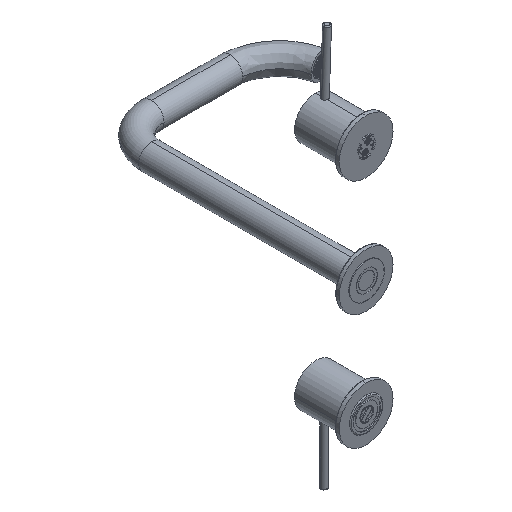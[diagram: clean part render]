
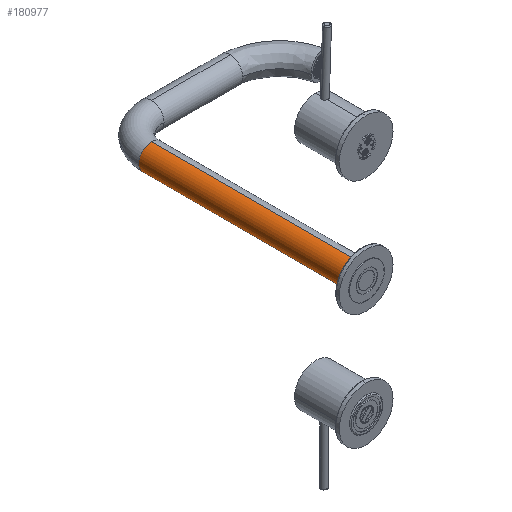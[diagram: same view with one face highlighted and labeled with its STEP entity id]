
A CAD part, isometric view. The second image highlights one B-rep face of the part: STEP entity #180977.
In plain terms, the highlighted cylindrical face has radius 12 mm (diameter 24 mm), a partial arc.
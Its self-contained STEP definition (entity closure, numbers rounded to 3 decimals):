
#77 = DIRECTION ( 'NONE',  ( 0., 1., 0. ) ) ;
#248 = VERTEX_POINT ( 'NONE', #121029 ) ;
#411 = AXIS2_PLACEMENT_3D ( 'NONE', #126833, #60055, #95019 ) ;
#3891 = EDGE_CURVE ( 'NONE', #248, #40190, #157129, .T. ) ;
#4238 = EDGE_LOOP ( 'NONE', ( #158423, #73448, #28075, #25487, #28179 ) ) ;
#7003 = DIRECTION ( 'NONE',  ( 0., -1., 0. ) ) ;
#16295 = EDGE_CURVE ( 'NONE', #42770, #22301, #75241, .T. ) ;
#22301 = VERTEX_POINT ( 'NONE', #138086 ) ;
#22676 = CARTESIAN_POINT ( 'NONE',  ( -130.623, 105.856, 166.776 ) ) ;
#25487 = ORIENTED_EDGE ( 'NONE', *, *, #165949, .T. ) ;
#28075 = ORIENTED_EDGE ( 'NONE', *, *, #179790, .T. ) ;
#28179 = ORIENTED_EDGE ( 'NONE', *, *, #3891, .T. ) ;
#30388 = DIRECTION ( 'NONE',  ( 0., 0., 1. ) ) ;
#37281 = CARTESIAN_POINT ( 'NONE',  ( -130.623, -94.144, 178.776 ) ) ;
#40190 = VERTEX_POINT ( 'NONE', #22676 ) ;
#42770 = VERTEX_POINT ( 'NONE', #67386 ) ;
#60055 = DIRECTION ( 'NONE',  ( 0., -1., 0. ) ) ;
#62199 = FACE_OUTER_BOUND ( 'NONE', #4238, .T. ) ;
#64313 = DIRECTION ( 'NONE',  ( 0., 1., 0. ) ) ;
#65136 = AXIS2_PLACEMENT_3D ( 'NONE', #160852, #64313, #30388 ) ;
#67386 = CARTESIAN_POINT ( 'NONE',  ( -130.623, -94.144, 190.776 ) ) ;
#68060 = DIRECTION ( 'NONE',  ( 0., -1., 0. ) ) ;
#69127 = DIRECTION ( 'NONE',  ( 1., 0., 0. ) ) ;
#71604 = VECTOR ( 'NONE', #77, 1000. ) ;
#73448 = ORIENTED_EDGE ( 'NONE', *, *, #16295, .F. ) ;
#75241 = CIRCLE ( 'NONE', #129499, 12. ) ;
#95013 = VERTEX_POINT ( 'NONE', #127778 ) ;
#95019 = DIRECTION ( 'NONE',  ( 1., 0., 0. ) ) ;
#118344 = DIRECTION ( 'NONE',  ( 1., 0., 0. ) ) ;
#121029 = CARTESIAN_POINT ( 'NONE',  ( -142.623, 105.856, 178.776 ) ) ;
#126833 = CARTESIAN_POINT ( 'NONE',  ( -130.623, 105.856, 178.776 ) ) ;
#127778 = CARTESIAN_POINT ( 'NONE',  ( -130.623, 105.856, 190.776 ) ) ;
#129499 = AXIS2_PLACEMENT_3D ( 'NONE', #37281, #68060, #69127 ) ;
#138086 = CARTESIAN_POINT ( 'NONE',  ( -130.623, -94.144, 166.776 ) ) ;
#144010 = LINE ( 'NONE', #159933, #169305 ) ;
#145408 = LINE ( 'NONE', #196176, #71604 ) ;
#157129 = CIRCLE ( 'NONE', #167384, 12. ) ;
#158423 = ORIENTED_EDGE ( 'NONE', *, *, #183847, .F. ) ;
#159933 = CARTESIAN_POINT ( 'NONE',  ( -130.623, -94.144, 190.776 ) ) ;
#160852 = CARTESIAN_POINT ( 'NONE',  ( -130.623, -94.144, 178.776 ) ) ;
#160970 = DIRECTION ( 'NONE',  ( 0., 1., 0. ) ) ;
#165949 = EDGE_CURVE ( 'NONE', #95013, #248, #193371, .T. ) ;
#167384 = AXIS2_PLACEMENT_3D ( 'NONE', #202093, #7003, #118344 ) ;
#169305 = VECTOR ( 'NONE', #160970, 1000. ) ;
#179790 = EDGE_CURVE ( 'NONE', #42770, #95013, #144010, .T. ) ;
#180977 = ADVANCED_FACE ( 'NONE', ( #62199 ), #191508, .T. ) ;
#183847 = EDGE_CURVE ( 'NONE', #22301, #40190, #145408, .T. ) ;
#191508 = CYLINDRICAL_SURFACE ( 'NONE', #65136, 12. ) ;
#193371 = CIRCLE ( 'NONE', #411, 12. ) ;
#196176 = CARTESIAN_POINT ( 'NONE',  ( -130.623, -94.144, 166.776 ) ) ;
#202093 = CARTESIAN_POINT ( 'NONE',  ( -130.623, 105.856, 178.776 ) ) ;
